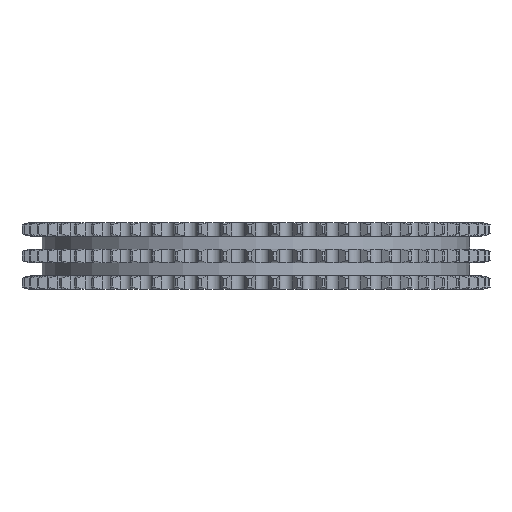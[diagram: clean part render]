
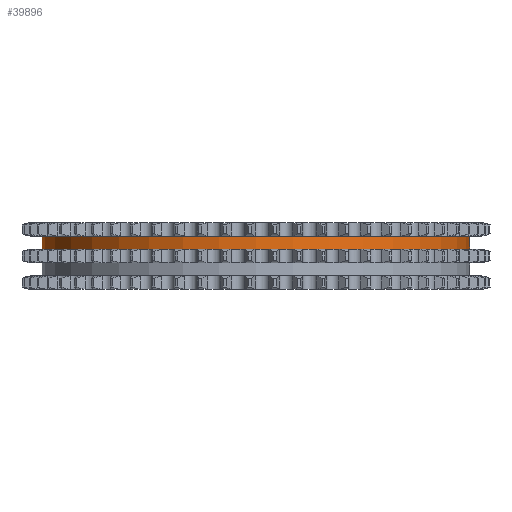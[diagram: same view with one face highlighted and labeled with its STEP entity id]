
A CAD part, left-side view. The second image highlights one B-rep face of the part: STEP entity #39896.
In plain terms, the highlighted cylindrical face has radius 111.311 mm (diameter 222.622 mm), a partial arc.
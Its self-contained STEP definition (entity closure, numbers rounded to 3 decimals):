
#7117=DIRECTION('',(0.,0.,-1.));
#7118=VECTOR('',#7117,6.65);
#7119=CARTESIAN_POINT('',(0.,111.311,10.25));
#7120=LINE('',#7119,#7118);
#7124=CARTESIAN_POINT('',(0.,0.,10.25));
#7125=DIRECTION('',(0.,0.,1.));
#7126=DIRECTION('',(0.,1.,0.));
#7127=AXIS2_PLACEMENT_3D('',#7124,#7125,#7126);
#7132=DIRECTION('',(0.,0.,-1.));
#7133=VECTOR('',#7132,6.65);
#7134=CARTESIAN_POINT('',(0.,-111.311,10.25));
#7135=LINE('',#7134,#7133);
#7139=CARTESIAN_POINT('',(0.,0.,3.6));
#7140=DIRECTION('',(0.,0.,1.));
#7141=DIRECTION('',(0.,1.,0.));
#7142=AXIS2_PLACEMENT_3D('',#7139,#7140,#7141);
#31839=CARTESIAN_POINT('',(0.,111.311,10.25));
#31840=CARTESIAN_POINT('',(0.,111.311,3.6));
#31841=VERTEX_POINT('',#31839);
#31842=VERTEX_POINT('',#31840);
#31843=CARTESIAN_POINT('',(0.,-111.311,10.25));
#31844=CARTESIAN_POINT('',(0.,-111.311,3.6));
#31845=VERTEX_POINT('',#31843);
#31846=VERTEX_POINT('',#31844);
#39884=CARTESIAN_POINT('',(0.,0.,11.275));
#39885=DIRECTION('',(0.,0.,-1.));
#39886=DIRECTION('',(0.,-1.,0.));
#39887=AXIS2_PLACEMENT_3D('',#39884,#39885,#39886);
#39888=CYLINDRICAL_SURFACE('',#39887,111.311);
#39889=ORIENTED_EDGE('',*,*,#39874,.F.);
#39890=ORIENTED_EDGE('',*,*,#39864,.T.);
#39891=ORIENTED_EDGE('',*,*,#39878,.T.);
#39893=ORIENTED_EDGE('',*,*,#39892,.F.);
#39894=EDGE_LOOP('',(#39889,#39890,#39891,#39893));
#39895=FACE_OUTER_BOUND('',#39894,.F.);
#39896=ADVANCED_FACE('',(#39895),#39888,.T.);
#7128=CIRCLE('',#7127,111.311);
#7143=CIRCLE('',#7142,111.311);
#39864=EDGE_CURVE('',#31841,#31845,#7128,.T.);
#39874=EDGE_CURVE('',#31841,#31842,#7120,.T.);
#39878=EDGE_CURVE('',#31845,#31846,#7135,.T.);
#39892=EDGE_CURVE('',#31842,#31846,#7143,.T.);
